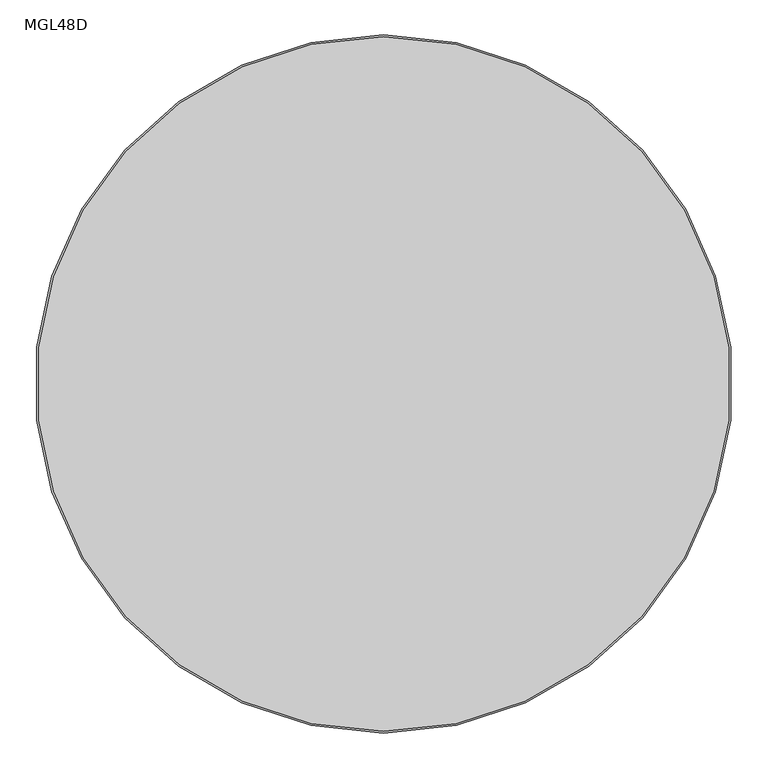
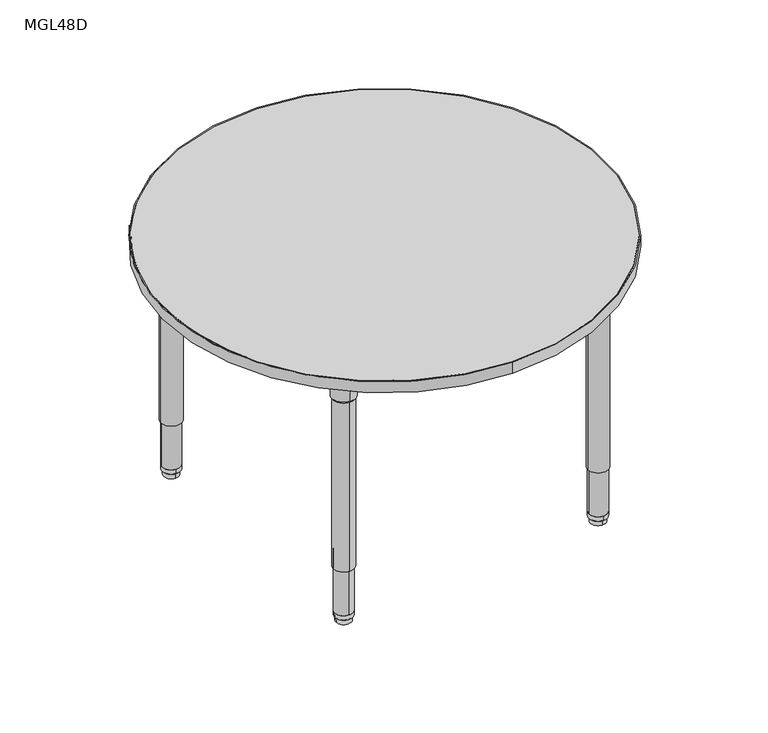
"""IFC4 building model written with IfcOpenShell, lengths in millimetres: furniture geometry, ERG-Mingle-Table-Round : MGL48D."""

from ifc_helpers import new_model, si_unit, point, frame, frame_2d, origin, origin_2d, place, context, project, spatial, polyline, circle_curve, trimmed, segment, composite_curve, outline, extrude, source, transform, mapped, element, save
from ifc_brep_helpers import plane_surface, cylinder_surface, revolved_surface, advanced_brep


def mgl48d_62a0719f(model_context):
    return source(origin(), model_context, "Body", "SolidModel", [
        advanced_brep(
        [(361.3237747, -338.5133775, 650.5933069), (421.3944063, -338.5133775, 650.5933069), (391.3590905, -338.5133775, 650.5933069), (359.2152075, -338.5133775, 654.3580481), (423.5029735, -338.5133775, 654.3580481), (358.2797256, -338.5133775, 707.7631458), (424.4384554, -338.5133775, 707.7631458), (354.8301735, -338.5133775, 714.1198315), (427.8880075, -338.5133775, 714.1198315), (354.8301735, -338.5133775, 726.8198315), (427.8880075, -338.5133775, 726.8198315), (391.3590905, -338.5133775, 726.8198315)],
        [
            (0, 1, circle_curve(frame((391.3590905, -338.5133775, 650.5933069), z_axis=(0.0, 0.0, -1.0), x_axis=(1.0, 0.0, 0.0)), 30.0353158)),
            (1, 2),
            (2, 0),
            (1, 0, circle_curve(frame((391.3590905, -338.5133775, 650.5933069), z_axis=(0.0, 0.0, -1.0), x_axis=(1.0, 0.0, 0.0)), 30.0353158)),
            (3, 4, circle_curve(frame((391.3590905, -338.5133775, 654.3580481), z_axis=(0.0, 0.0, -1.0), x_axis=(1.0, 0.0, 0.0)), 32.143883)),
            (4, 1),
            (0, 3),
            (4, 3, circle_curve(frame((391.3590905, -338.5133775, 654.3580481), z_axis=(0.0, 0.0, -1.0), x_axis=(1.0, 0.0, 0.0)), 32.143883)),
            (5, 6, circle_curve(frame((391.3590905, -338.5133775, 707.7631458), z_axis=(0.0, 0.0, -1.0), x_axis=(1.0, 0.0, 0.0)), 33.0793649)),
            (6, 4),
            (3, 5),
            (6, 5, circle_curve(frame((391.3590905, -338.5133775, 707.7631458), z_axis=(0.0, 0.0, -1.0), x_axis=(1.0, 0.0, 0.0)), 33.0793649)),
            (7, 8, circle_curve(frame((391.3590905, -338.5133775, 714.1198315), z_axis=(0.0, 0.0, -1.0), x_axis=(1.0, 0.0, 0.0)), 36.528917)),
            (8, 6),
            (5, 7),
            (8, 7, circle_curve(frame((391.3590905, -338.5133775, 714.1198315), z_axis=(0.0, 0.0, -1.0), x_axis=(1.0, 0.0, 0.0)), 36.528917)),
            (9, 10, circle_curve(frame((391.3590905, -338.5133775, 726.8198315), z_axis=(0.0, 0.0, -1.0), x_axis=(1.0, 0.0, 0.0)), 36.528917)),
            (10, 8),
            (7, 9),
            (10, 9, circle_curve(frame((391.3590905, -338.5133775, 726.8198315), z_axis=(0.0, 0.0, -1.0), x_axis=(1.0, 0.0, 0.0)), 36.528917)),
            (11, 10),
            (9, 11),
        ],
        [
            plane_surface(frame((391.3590905, -338.5133775, 650.5933069), z_axis=(0.0, 0.0, -1.0), x_axis=(1.0, 0.0, 0.0))),
            revolved_surface(polyline([(421.3944063, -338.5133775, 650.5933069), (423.5029735, -338.5133775, 654.3580481)]), (391.3590905, -338.5133775, 726.8198315), (0.0, 0.0, 1.0)),
            revolved_surface(polyline([(423.5029735, -338.5133775, 654.3580481), (424.4384554, -338.5133775, 707.7631458)]), (391.3590905, -338.5133775, 726.8198315), (0.0, 0.0, 1.0)),
            revolved_surface(polyline([(424.4384554, -338.5133775, 707.7631458), (427.8880075, -338.5133775, 714.1198315)]), (391.3590905, -338.5133775, 726.8198315), (0.0, 0.0, 1.0)),
            cylinder_surface(frame((391.3590905, -338.5133775, 726.8198315), z_axis=(0.0, 0.0, 1.0), x_axis=(1.0, 0.0, 0.0)), 36.528917),
            plane_surface(frame((391.3590905, -338.5133775, 726.8198315), z_axis=(0.0, 0.0, 1.0), x_axis=(1.0, 0.0, 0.0))),
        ],
        [
            (0, [[1, 2, 3]]),
            (0, [[4, -3, -2]]),
            (1, [[5, 6, -1, 7]]),
            (1, [[8, -7, -4, -6]]),
            (2, [[9, 10, -5, 11]]),
            (2, [[12, -11, -8, -10]]),
            (3, [[13, 14, -9, 15]]),
            (3, [[16, -15, -12, -14]]),
            (4, [[17, 18, -13, 19]]),
            (4, [[20, -19, -16, -18]]),
            (5, [[21, -17, 22]]),
            (5, [[-22, -20, -21]]),
        ],
    ),
        extrude(outline(composite_curve([segment(polyline([(437.2328585, -255.9357201), (437.2328585, -369.6617529)]), True, "CONTINUOUS"), segment(trimmed(circle_curve(frame_2d((421.3578585, -369.6617529)), 15.875), [point((437.2328585, -369.6617529))], [point((421.3578585, -385.5367529))], False, "CARTESIAN"), True, "CONTINUOUS"), segment(polyline([(421.3578585, -385.5367529), (307.645511, -385.5367529)]), True, "CONTINUOUS"), segment(trimmed(circle_curve(frame_2d((307.645511, -372.8367529)), 12.7), [point((307.645511, -385.5367529))], [point((295.0082828, -371.5756169))], False, "CARTESIAN"), True, "CONTINUOUS"), segment(trimmed(circle_curve(frame_2d((437.5076982, -385.7963892)), 143.2072406), [point((295.0082828, -371.5756169))], [point((423.270243, -243.2986397))], False, "CARTESIAN"), True, "CONTINUOUS"), segment(trimmed(circle_curve(frame_2d((424.5328585, -255.9357201)), 12.7), [point((423.270243, -243.2986397))], [point((437.2328585, -255.9357201))], False, "CARTESIAN"), True, "CONTINUOUS")], self_intersect=False)), frame((0.0, 0.0, 726.8198315), z_axis=(0.0, 0.0, 1.0), x_axis=(1.0, 0.0, 0.0)), (0.0, 0.0, 1.0), 3.4301685),
        extrude(outline(composite_curve([segment(trimmed(circle_curve(frame_2d((391.3590905, -338.5133775)), 28.575), [point((419.9340905, -338.5133775))], [point((362.7840905, -338.5133775))], False, "CARTESIAN"), True, "CONTINUOUS"), segment(trimmed(circle_curve(frame_2d((391.3590905, -338.5133775)), 28.575), [point((362.7840905, -338.5133775))], [point((419.9340905, -338.5133775))], False, "CARTESIAN"), True, "CONTINUOUS")], self_intersect=False)), frame((0.0, 0.0, 158.3876979), z_axis=(0.0, 0.0, 1.0), x_axis=(1.0, 0.0, 0.0)), (0.0, 0.0, 1.0), 495.4089866),
        extrude(outline(composite_curve([segment(trimmed(circle_curve(frame_2d((391.3590905, -338.5133775)), 25.4), [point((416.7590905, -338.5133775))], [point((365.9590905, -338.5133775))], False, "CARTESIAN"), True, "CONTINUOUS"), segment(trimmed(circle_curve(frame_2d((391.3590905, -338.5133775)), 25.4), [point((365.9590905, -338.5133775))], [point((416.7590905, -338.5133775))], False, "CARTESIAN"), True, "CONTINUOUS")], self_intersect=False)), frame((0.0, 0.0, 28.9580435), z_axis=(0.0, 0.0, 1.0), x_axis=(1.0, 0.0, 0.0)), (0.0, 0.0, 1.0), 176.7049119),
        advanced_brep(
        [(391.3590905, -313.2783671, 28.9580185), (391.3590905, -363.7483879, 28.9580185), (391.3590905, -338.5133775, 28.9580185), (391.3590905, -313.4141385, 16.3032949), (391.3590905, -363.6126165, 16.3032949), (391.3590905, -314.9294393, 14.7291007), (391.3590905, -362.0973156, 14.7291007), (391.3590905, -317.3725197, 14.7291007), (391.3590905, -359.6542353, 14.7291007), (391.3590905, -317.5655111, 0.0), (391.3590905, -359.4612438, 0.0), (391.3590905, -338.5133775, 0.0)],
        [
            (0, 1, circle_curve(frame((391.3590905, -338.5133775, 28.9580185), z_axis=(0.0, 0.0, 1.0), x_axis=(0.0, -1.0, 0.0)), 25.2350104)),
            (1, 2),
            (2, 0),
            (1, 0, circle_curve(frame((391.3590905, -338.5133775, 28.9580185), z_axis=(0.0, 0.0, 1.0), x_axis=(0.0, -1.0, 0.0)), 25.2350104)),
            (3, 4, circle_curve(frame((391.3590905, -338.5133775, 16.3032949), z_axis=(0.0, 0.0, 1.0), x_axis=(0.0, -1.0, 0.0)), 25.099239)),
            (4, 1),
            (0, 3),
            (4, 3, circle_curve(frame((391.3590905, -338.5133775, 16.3032949), z_axis=(0.0, 0.0, 1.0), x_axis=(0.0, -1.0, 0.0)), 25.099239)),
            (5, 6, circle_curve(frame((391.3590905, -338.5133775, 14.7291007), z_axis=(0.0, 0.0, 1.0), x_axis=(0.0, -1.0, 0.0)), 23.5839381)),
            (6, 4),
            (3, 5),
            (6, 5, circle_curve(frame((391.3590905, -338.5133775, 14.7291007), z_axis=(0.0, 0.0, 1.0), x_axis=(0.0, -1.0, 0.0)), 23.5839381)),
            (7, 8, circle_curve(frame((391.3590905, -338.5133775, 14.7291007), z_axis=(0.0, 0.0, 1.0), x_axis=(0.0, -1.0, 0.0)), 21.1408578)),
            (8, 6),
            (5, 7),
            (8, 7, circle_curve(frame((391.3590905, -338.5133775, 14.7291007), z_axis=(0.0, 0.0, 1.0), x_axis=(0.0, -1.0, 0.0)), 21.1408578)),
            (9, 10, circle_curve(frame((391.3590905, -338.5133775, 0.0), z_axis=(0.0, 0.0, 1.0), x_axis=(0.0, -1.0, 0.0)), 20.9478664)),
            (10, 8),
            (7, 9),
            (10, 9, circle_curve(frame((391.3590905, -338.5133775, 0.0), z_axis=(0.0, 0.0, 1.0), x_axis=(0.0, -1.0, 0.0)), 20.9478664)),
            (11, 10),
            (9, 11),
        ],
        [
            plane_surface(frame((391.3590905, -338.5133775, 28.9580185), z_axis=(0.0, 0.0, 1.0), x_axis=(0.0, -1.0, 0.0))),
            revolved_surface(polyline([(391.3590905, -363.7483879, 28.9580185), (391.3590905, -363.6126165, 16.3032949)]), (391.3590905, -338.5133775, 0.0), (0.0, 0.0, -1.0)),
            revolved_surface(polyline([(391.3590905, -363.6126165, 16.3032949), (391.3590905, -362.0973156, 14.7291007)]), (391.3590905, -338.5133775, 0.0), (0.0, 0.0, -1.0)),
            plane_surface(frame((391.3590905, -338.5133775, 14.7291007), z_axis=(0.0, 0.0, -1.0), x_axis=(0.0, -1.0, 0.0))),
            revolved_surface(polyline([(391.3590905, -359.6542353, 14.7291007), (391.3590905, -359.4612438, 0.0)]), (391.3590905, -338.5133775, 0.0), (0.0, 0.0, -1.0)),
            plane_surface(frame((391.3590905, -338.5133775, 0.0), z_axis=(0.0, 0.0, -1.0), x_axis=(0.0, -1.0, 0.0))),
        ],
        [
            (0, [[1, 2, 3]]),
            (0, [[4, -3, -2]]),
            (1, [[5, 6, -1, 7]]),
            (1, [[8, -7, -4, -6]]),
            (2, [[9, 10, -5, 11]]),
            (2, [[12, -11, -8, -10]]),
            (3, [[13, 14, -9, 15]]),
            (3, [[16, -15, -12, -14]]),
            (4, [[17, 18, -13, 19]]),
            (4, [[20, -19, -16, -18]]),
            (5, [[21, -17, 22]]),
            (5, [[-22, -20, -21]]),
        ],
    ),
        advanced_brep(
        [(-338.5133775, -361.3237747, 650.5933069), (-338.5133775, -421.3944063, 650.5933069), (-338.5133775, -391.3590905, 650.5933069), (-338.5133775, -359.2152075, 654.3580481), (-338.5133775, -423.5029735, 654.3580481), (-338.5133775, -358.2797256, 707.7631458), (-338.5133775, -424.4384554, 707.7631458), (-338.5133775, -354.8301735, 714.1198315), (-338.5133775, -427.8880075, 714.1198315), (-338.5133775, -354.8301735, 726.8198315), (-338.5133775, -427.8880075, 726.8198315), (-338.5133775, -391.3590905, 726.8198315)],
        [
            (0, 1, circle_curve(frame((-338.5133775, -391.3590905, 650.5933069), z_axis=(0.0, 0.0, -1.0), x_axis=(0.0, -1.0, 0.0)), 30.0353158)),
            (1, 2),
            (2, 0),
            (1, 0, circle_curve(frame((-338.5133775, -391.3590905, 650.5933069), z_axis=(0.0, 0.0, -1.0), x_axis=(0.0, -1.0, 0.0)), 30.0353158)),
            (3, 4, circle_curve(frame((-338.5133775, -391.3590905, 654.3580481), z_axis=(0.0, 0.0, -1.0), x_axis=(0.0, -1.0, 0.0)), 32.143883)),
            (4, 1),
            (0, 3),
            (4, 3, circle_curve(frame((-338.5133775, -391.3590905, 654.3580481), z_axis=(0.0, 0.0, -1.0), x_axis=(0.0, -1.0, 0.0)), 32.143883)),
            (5, 6, circle_curve(frame((-338.5133775, -391.3590905, 707.7631458), z_axis=(0.0, 0.0, -1.0), x_axis=(0.0, -1.0, 0.0)), 33.0793649)),
            (6, 4),
            (3, 5),
            (6, 5, circle_curve(frame((-338.5133775, -391.3590905, 707.7631458), z_axis=(0.0, 0.0, -1.0), x_axis=(0.0, -1.0, 0.0)), 33.0793649)),
            (7, 8, circle_curve(frame((-338.5133775, -391.3590905, 714.1198315), z_axis=(0.0, 0.0, -1.0), x_axis=(0.0, -1.0, 0.0)), 36.528917)),
            (8, 6),
            (5, 7),
            (8, 7, circle_curve(frame((-338.5133775, -391.3590905, 714.1198315), z_axis=(0.0, 0.0, -1.0), x_axis=(0.0, -1.0, 0.0)), 36.528917)),
            (9, 10, circle_curve(frame((-338.5133775, -391.3590905, 726.8198315), z_axis=(0.0, 0.0, -1.0), x_axis=(0.0, -1.0, 0.0)), 36.528917)),
            (10, 8),
            (7, 9),
            (10, 9, circle_curve(frame((-338.5133775, -391.3590905, 726.8198315), z_axis=(0.0, 0.0, -1.0), x_axis=(0.0, -1.0, 0.0)), 36.528917)),
            (11, 10),
            (9, 11),
        ],
        [
            plane_surface(frame((-338.5133775, -391.3590905, 650.5933069), z_axis=(0.0, 0.0, -1.0), x_axis=(0.0, -1.0, 0.0))),
            revolved_surface(polyline([(-338.5133775, -421.3944063, 650.5933069), (-338.5133775, -423.5029735, 654.3580481)]), (-338.5133775, -391.3590905, 726.8198315), (0.0, 0.0, 1.0)),
            revolved_surface(polyline([(-338.5133775, -423.5029735, 654.3580481), (-338.5133775, -424.4384554, 707.7631458)]), (-338.5133775, -391.3590905, 726.8198315), (0.0, 0.0, 1.0)),
            revolved_surface(polyline([(-338.5133775, -424.4384554, 707.7631458), (-338.5133775, -427.8880075, 714.1198315)]), (-338.5133775, -391.3590905, 726.8198315), (0.0, 0.0, 1.0)),
            cylinder_surface(frame((-338.5133775, -391.3590905, 726.8198315), z_axis=(0.0, 0.0, 1.0), x_axis=(0.0, -1.0, 0.0)), 36.528917),
            plane_surface(frame((-338.5133775, -391.3590905, 726.8198315), z_axis=(0.0, 0.0, 1.0), x_axis=(0.0, -1.0, 0.0))),
        ],
        [
            (0, [[1, 2, 3]]),
            (0, [[4, -3, -2]]),
            (1, [[5, 6, -1, 7]]),
            (1, [[8, -7, -4, -6]]),
            (2, [[9, 10, -5, 11]]),
            (2, [[12, -11, -8, -10]]),
            (3, [[13, 14, -9, 15]]),
            (3, [[16, -15, -12, -14]]),
            (4, [[17, 18, -13, 19]]),
            (4, [[20, -19, -16, -18]]),
            (5, [[21, -17, 22]]),
            (5, [[-22, -20, -21]]),
        ],
    ),
        extrude(outline(composite_curve([segment(polyline([(-255.9357201, -437.2328585), (-369.6617529, -437.2328585)]), True, "CONTINUOUS"), segment(trimmed(circle_curve(frame_2d((-369.6617529, -421.3578585)), 15.875), [point((-369.6617529, -437.2328585))], [point((-385.5367529, -421.3578585))], False, "CARTESIAN"), True, "CONTINUOUS"), segment(polyline([(-385.5367529, -421.3578585), (-385.5367529, -307.645511)]), True, "CONTINUOUS"), segment(trimmed(circle_curve(frame_2d((-372.8367529, -307.645511)), 12.7), [point((-385.5367529, -307.645511))], [point((-371.5756169, -295.0082828))], False, "CARTESIAN"), True, "CONTINUOUS"), segment(trimmed(circle_curve(frame_2d((-385.7963892, -437.5076982)), 143.2072406), [point((-371.5756169, -295.0082828))], [point((-243.2986397, -423.270243))], False, "CARTESIAN"), True, "CONTINUOUS"), segment(trimmed(circle_curve(frame_2d((-255.9357201, -424.5328585)), 12.7), [point((-243.2986397, -423.270243))], [point((-255.9357201, -437.2328585))], False, "CARTESIAN"), True, "CONTINUOUS")], self_intersect=False)), frame((0.0, 0.0, 726.8198315), z_axis=(0.0, 0.0, 1.0), x_axis=(1.0, 0.0, 0.0)), (0.0, 0.0, 1.0), 3.4301685),
        extrude(outline(composite_curve([segment(trimmed(circle_curve(frame_2d((-338.5133775, -391.3590905)), 28.575), [point((-338.5133775, -419.9340905))], [point((-338.5133775, -362.7840905))], False, "CARTESIAN"), True, "CONTINUOUS"), segment(trimmed(circle_curve(frame_2d((-338.5133775, -391.3590905)), 28.575), [point((-338.5133775, -362.7840905))], [point((-338.5133775, -419.9340905))], False, "CARTESIAN"), True, "CONTINUOUS")], self_intersect=False)), frame((0.0, 0.0, 158.3876979), z_axis=(0.0, 0.0, 1.0), x_axis=(1.0, 0.0, 0.0)), (0.0, 0.0, 1.0), 495.4089866),
        extrude(outline(composite_curve([segment(trimmed(circle_curve(frame_2d((-338.5133775, -391.3590905)), 25.4), [point((-338.5133775, -416.7590905))], [point((-338.5133775, -365.9590905))], False, "CARTESIAN"), True, "CONTINUOUS"), segment(trimmed(circle_curve(frame_2d((-338.5133775, -391.3590905)), 25.4), [point((-338.5133775, -365.9590905))], [point((-338.5133775, -416.7590905))], False, "CARTESIAN"), True, "CONTINUOUS")], self_intersect=False)), frame((0.0, 0.0, 28.9580435), z_axis=(0.0, 0.0, 1.0), x_axis=(1.0, 0.0, 0.0)), (0.0, 0.0, 1.0), 176.7049119),
        advanced_brep(
        [(-313.2783671, -391.3590905, 28.9580185), (-363.7483879, -391.3590905, 28.9580185), (-338.5133775, -391.3590905, 28.9580185), (-313.4141385, -391.3590905, 16.3032949), (-363.6126165, -391.3590905, 16.3032949), (-314.9294393, -391.3590905, 14.7291007), (-362.0973156, -391.3590905, 14.7291007), (-317.3725197, -391.3590905, 14.7291007), (-359.6542353, -391.3590905, 14.7291007), (-317.5655111, -391.3590905, 0.0), (-359.4612438, -391.3590905, 0.0), (-338.5133775, -391.3590905, 0.0)],
        [
            (0, 1, circle_curve(frame((-338.5133775, -391.3590905, 28.9580185), z_axis=(0.0, 0.0, 1.0), x_axis=(-1.0, 0.0, 0.0)), 25.2350104)),
            (1, 2),
            (2, 0),
            (1, 0, circle_curve(frame((-338.5133775, -391.3590905, 28.9580185), z_axis=(0.0, 0.0, 1.0), x_axis=(-1.0, 0.0, 0.0)), 25.2350104)),
            (3, 4, circle_curve(frame((-338.5133775, -391.3590905, 16.3032949), z_axis=(0.0, 0.0, 1.0), x_axis=(-1.0, 0.0, 0.0)), 25.099239)),
            (4, 1),
            (0, 3),
            (4, 3, circle_curve(frame((-338.5133775, -391.3590905, 16.3032949), z_axis=(0.0, 0.0, 1.0), x_axis=(-1.0, 0.0, 0.0)), 25.099239)),
            (5, 6, circle_curve(frame((-338.5133775, -391.3590905, 14.7291007), z_axis=(0.0, 0.0, 1.0), x_axis=(-1.0, 0.0, 0.0)), 23.5839381)),
            (6, 4),
            (3, 5),
            (6, 5, circle_curve(frame((-338.5133775, -391.3590905, 14.7291007), z_axis=(0.0, 0.0, 1.0), x_axis=(-1.0, 0.0, 0.0)), 23.5839381)),
            (7, 8, circle_curve(frame((-338.5133775, -391.3590905, 14.7291007), z_axis=(0.0, 0.0, 1.0), x_axis=(-1.0, 0.0, 0.0)), 21.1408578)),
            (8, 6),
            (5, 7),
            (8, 7, circle_curve(frame((-338.5133775, -391.3590905, 14.7291007), z_axis=(0.0, 0.0, 1.0), x_axis=(-1.0, 0.0, 0.0)), 21.1408578)),
            (9, 10, circle_curve(frame((-338.5133775, -391.3590905, 0.0), z_axis=(0.0, 0.0, 1.0), x_axis=(-1.0, 0.0, 0.0)), 20.9478664)),
            (10, 8),
            (7, 9),
            (10, 9, circle_curve(frame((-338.5133775, -391.3590905, 0.0), z_axis=(0.0, 0.0, 1.0), x_axis=(-1.0, 0.0, 0.0)), 20.9478664)),
            (11, 10),
            (9, 11),
        ],
        [
            plane_surface(frame((-338.5133775, -391.3590905, 28.9580185), z_axis=(0.0, 0.0, 1.0), x_axis=(-1.0, 0.0, 0.0))),
            revolved_surface(polyline([(-363.7483879, -391.3590905, 28.9580185), (-363.6126165, -391.3590905, 16.3032949)]), (-338.5133775, -391.3590905, 0.0), (0.0, 0.0, -1.0)),
            revolved_surface(polyline([(-363.6126165, -391.3590905, 16.3032949), (-362.0973156, -391.3590905, 14.7291007)]), (-338.5133775, -391.3590905, 0.0), (0.0, 0.0, -1.0)),
            plane_surface(frame((-338.5133775, -391.3590905, 14.7291007), z_axis=(0.0, 0.0, -1.0), x_axis=(-1.0, 0.0, 0.0))),
            revolved_surface(polyline([(-359.6542353, -391.3590905, 14.7291007), (-359.4612438, -391.3590905, 0.0)]), (-338.5133775, -391.3590905, 0.0), (0.0, 0.0, -1.0)),
            plane_surface(frame((-338.5133775, -391.3590905, 0.0), z_axis=(0.0, 0.0, -1.0), x_axis=(-1.0, 0.0, 0.0))),
        ],
        [
            (0, [[1, 2, 3]]),
            (0, [[4, -3, -2]]),
            (1, [[5, 6, -1, 7]]),
            (1, [[8, -7, -4, -6]]),
            (2, [[9, 10, -5, 11]]),
            (2, [[12, -11, -8, -10]]),
            (3, [[13, 14, -9, 15]]),
            (3, [[16, -15, -12, -14]]),
            (4, [[17, 18, -13, 19]]),
            (4, [[20, -19, -16, -18]]),
            (5, [[21, -17, 22]]),
            (5, [[-22, -20, -21]]),
        ],
    ),
        advanced_brep(
        [(338.5133775, 361.3237747, 650.5933069), (338.5133775, 421.3944063, 650.5933069), (338.5133775, 391.3590905, 650.5933069), (338.5133775, 359.2152075, 654.3580481), (338.5133775, 423.5029735, 654.3580481), (338.5133775, 358.2797256, 707.7631458), (338.5133775, 424.4384554, 707.7631458), (338.5133775, 354.8301735, 714.1198315), (338.5133775, 427.8880075, 714.1198315), (338.5133775, 354.8301735, 726.8198315), (338.5133775, 427.8880075, 726.8198315), (338.5133775, 391.3590905, 726.8198315)],
        [
            (0, 1, circle_curve(frame((338.5133775, 391.3590905, 650.5933069), z_axis=(0.0, 0.0, -1.0), x_axis=(0.0, 1.0, 0.0)), 30.0353158)),
            (1, 2),
            (2, 0),
            (1, 0, circle_curve(frame((338.5133775, 391.3590905, 650.5933069), z_axis=(0.0, 0.0, -1.0), x_axis=(0.0, 1.0, 0.0)), 30.0353158)),
            (3, 4, circle_curve(frame((338.5133775, 391.3590905, 654.3580481), z_axis=(0.0, 0.0, -1.0), x_axis=(0.0, 1.0, 0.0)), 32.143883)),
            (4, 1),
            (0, 3),
            (4, 3, circle_curve(frame((338.5133775, 391.3590905, 654.3580481), z_axis=(0.0, 0.0, -1.0), x_axis=(0.0, 1.0, 0.0)), 32.143883)),
            (5, 6, circle_curve(frame((338.5133775, 391.3590905, 707.7631458), z_axis=(0.0, 0.0, -1.0), x_axis=(0.0, 1.0, 0.0)), 33.0793649)),
            (6, 4),
            (3, 5),
            (6, 5, circle_curve(frame((338.5133775, 391.3590905, 707.7631458), z_axis=(0.0, 0.0, -1.0), x_axis=(0.0, 1.0, 0.0)), 33.0793649)),
            (7, 8, circle_curve(frame((338.5133775, 391.3590905, 714.1198315), z_axis=(0.0, 0.0, -1.0), x_axis=(0.0, 1.0, 0.0)), 36.528917)),
            (8, 6),
            (5, 7),
            (8, 7, circle_curve(frame((338.5133775, 391.3590905, 714.1198315), z_axis=(0.0, 0.0, -1.0), x_axis=(0.0, 1.0, 0.0)), 36.528917)),
            (9, 10, circle_curve(frame((338.5133775, 391.3590905, 726.8198315), z_axis=(0.0, 0.0, -1.0), x_axis=(0.0, 1.0, 0.0)), 36.528917)),
            (10, 8),
            (7, 9),
            (10, 9, circle_curve(frame((338.5133775, 391.3590905, 726.8198315), z_axis=(0.0, 0.0, -1.0), x_axis=(0.0, 1.0, 0.0)), 36.528917)),
            (11, 10),
            (9, 11),
        ],
        [
            plane_surface(frame((338.5133775, 391.3590905, 650.5933069), z_axis=(0.0, 0.0, -1.0), x_axis=(0.0, 1.0, 0.0))),
            revolved_surface(polyline([(338.5133775, 421.3944063, 650.5933069), (338.5133775, 423.5029735, 654.3580481)]), (338.5133775, 391.3590905, 726.8198315), (0.0, 0.0, 1.0)),
            revolved_surface(polyline([(338.5133775, 423.5029735, 654.3580481), (338.5133775, 424.4384554, 707.7631458)]), (338.5133775, 391.3590905, 726.8198315), (0.0, 0.0, 1.0)),
            revolved_surface(polyline([(338.5133775, 424.4384554, 707.7631458), (338.5133775, 427.8880075, 714.1198315)]), (338.5133775, 391.3590905, 726.8198315), (0.0, 0.0, 1.0)),
            cylinder_surface(frame((338.5133775, 391.3590905, 726.8198315), z_axis=(0.0, 0.0, 1.0), x_axis=(0.0, 1.0, 0.0)), 36.528917),
            plane_surface(frame((338.5133775, 391.3590905, 726.8198315), z_axis=(0.0, 0.0, 1.0), x_axis=(0.0, 1.0, 0.0))),
        ],
        [
            (0, [[1, 2, 3]]),
            (0, [[4, -3, -2]]),
            (1, [[5, 6, -1, 7]]),
            (1, [[8, -7, -4, -6]]),
            (2, [[9, 10, -5, 11]]),
            (2, [[12, -11, -8, -10]]),
            (3, [[13, 14, -9, 15]]),
            (3, [[16, -15, -12, -14]]),
            (4, [[17, 18, -13, 19]]),
            (4, [[20, -19, -16, -18]]),
            (5, [[21, -17, 22]]),
            (5, [[-22, -20, -21]]),
        ],
    ),
        extrude(outline(composite_curve([segment(polyline([(255.9357201, 437.2328585), (369.6617529, 437.2328585)]), True, "CONTINUOUS"), segment(trimmed(circle_curve(frame_2d((369.6617529, 421.3578585)), 15.875), [point((369.6617529, 437.2328585))], [point((385.5367529, 421.3578585))], False, "CARTESIAN"), True, "CONTINUOUS"), segment(polyline([(385.5367529, 421.3578585), (385.5367529, 307.645511)]), True, "CONTINUOUS"), segment(trimmed(circle_curve(frame_2d((372.8367529, 307.645511)), 12.7), [point((385.5367529, 307.645511))], [point((371.5756169, 295.0082828))], False, "CARTESIAN"), True, "CONTINUOUS"), segment(trimmed(circle_curve(frame_2d((385.7963892, 437.5076982)), 143.2072406), [point((371.5756169, 295.0082828))], [point((243.2986397, 423.270243))], False, "CARTESIAN"), True, "CONTINUOUS"), segment(trimmed(circle_curve(frame_2d((255.9357201, 424.5328585)), 12.7), [point((243.2986397, 423.270243))], [point((255.9357201, 437.2328585))], False, "CARTESIAN"), True, "CONTINUOUS")], self_intersect=False)), frame((0.0, 0.0, 726.8198315), z_axis=(0.0, 0.0, 1.0), x_axis=(1.0, 0.0, 0.0)), (0.0, 0.0, 1.0), 3.4301685),
        extrude(outline(composite_curve([segment(trimmed(circle_curve(frame_2d((338.5133775, 391.3590905)), 28.575), [point((338.5133775, 419.9340905))], [point((338.5133775, 362.7840905))], False, "CARTESIAN"), True, "CONTINUOUS"), segment(trimmed(circle_curve(frame_2d((338.5133775, 391.3590905)), 28.575), [point((338.5133775, 362.7840905))], [point((338.5133775, 419.9340905))], False, "CARTESIAN"), True, "CONTINUOUS")], self_intersect=False)), frame((0.0, 0.0, 158.3876979), z_axis=(0.0, 0.0, 1.0), x_axis=(1.0, 0.0, 0.0)), (0.0, 0.0, 1.0), 495.4089866),
        extrude(outline(composite_curve([segment(trimmed(circle_curve(frame_2d((338.5133775, 391.3590905)), 25.4), [point((338.5133775, 416.7590905))], [point((338.5133775, 365.9590905))], False, "CARTESIAN"), True, "CONTINUOUS"), segment(trimmed(circle_curve(frame_2d((338.5133775, 391.3590905)), 25.4), [point((338.5133775, 365.9590905))], [point((338.5133775, 416.7590905))], False, "CARTESIAN"), True, "CONTINUOUS")], self_intersect=False)), frame((0.0, 0.0, 28.9580435), z_axis=(0.0, 0.0, 1.0), x_axis=(1.0, 0.0, 0.0)), (0.0, 0.0, 1.0), 176.7049119),
        advanced_brep(
        [(313.2783671, 391.3590905, 28.9580185), (363.7483879, 391.3590905, 28.9580185), (338.5133775, 391.3590905, 28.9580185), (313.4141385, 391.3590905, 16.3032949), (363.6126165, 391.3590905, 16.3032949), (314.9294393, 391.3590905, 14.7291007), (362.0973156, 391.3590905, 14.7291007), (317.3725197, 391.3590905, 14.7291007), (359.6542353, 391.3590905, 14.7291007), (317.5655111, 391.3590905, 0.0), (359.4612438, 391.3590905, 0.0), (338.5133775, 391.3590905, 0.0)],
        [
            (0, 1, circle_curve(frame((338.5133775, 391.3590905, 28.9580185), z_axis=(0.0, 0.0, 1.0), x_axis=(1.0, 0.0, 0.0)), 25.2350104)),
            (1, 2),
            (2, 0),
            (1, 0, circle_curve(frame((338.5133775, 391.3590905, 28.9580185), z_axis=(0.0, 0.0, 1.0), x_axis=(1.0, 0.0, 0.0)), 25.2350104)),
            (3, 4, circle_curve(frame((338.5133775, 391.3590905, 16.3032949), z_axis=(0.0, 0.0, 1.0), x_axis=(1.0, 0.0, 0.0)), 25.099239)),
            (4, 1),
            (0, 3),
            (4, 3, circle_curve(frame((338.5133775, 391.3590905, 16.3032949), z_axis=(0.0, 0.0, 1.0), x_axis=(1.0, 0.0, 0.0)), 25.099239)),
            (5, 6, circle_curve(frame((338.5133775, 391.3590905, 14.7291007), z_axis=(0.0, 0.0, 1.0), x_axis=(1.0, 0.0, 0.0)), 23.5839381)),
            (6, 4),
            (3, 5),
            (6, 5, circle_curve(frame((338.5133775, 391.3590905, 14.7291007), z_axis=(0.0, 0.0, 1.0), x_axis=(1.0, 0.0, 0.0)), 23.5839381)),
            (7, 8, circle_curve(frame((338.5133775, 391.3590905, 14.7291007), z_axis=(0.0, 0.0, 1.0), x_axis=(1.0, 0.0, 0.0)), 21.1408578)),
            (8, 6),
            (5, 7),
            (8, 7, circle_curve(frame((338.5133775, 391.3590905, 14.7291007), z_axis=(0.0, 0.0, 1.0), x_axis=(1.0, 0.0, 0.0)), 21.1408578)),
            (9, 10, circle_curve(frame((338.5133775, 391.3590905, 0.0), z_axis=(0.0, 0.0, 1.0), x_axis=(1.0, 0.0, 0.0)), 20.9478664)),
            (10, 8),
            (7, 9),
            (10, 9, circle_curve(frame((338.5133775, 391.3590905, 0.0), z_axis=(0.0, 0.0, 1.0), x_axis=(1.0, 0.0, 0.0)), 20.9478664)),
            (11, 10),
            (9, 11),
        ],
        [
            plane_surface(frame((338.5133775, 391.3590905, 28.9580185), z_axis=(0.0, 0.0, 1.0), x_axis=(1.0, 0.0, 0.0))),
            revolved_surface(polyline([(363.7483879, 391.3590905, 28.9580185), (363.6126165, 391.3590905, 16.3032949)]), (338.5133775, 391.3590905, 0.0), (0.0, 0.0, -1.0)),
            revolved_surface(polyline([(363.6126165, 391.3590905, 16.3032949), (362.0973156, 391.3590905, 14.7291007)]), (338.5133775, 391.3590905, 0.0), (0.0, 0.0, -1.0)),
            plane_surface(frame((338.5133775, 391.3590905, 14.7291007), z_axis=(0.0, 0.0, -1.0), x_axis=(1.0, 0.0, 0.0))),
            revolved_surface(polyline([(359.6542353, 391.3590905, 14.7291007), (359.4612438, 391.3590905, 0.0)]), (338.5133775, 391.3590905, 0.0), (0.0, 0.0, -1.0)),
            plane_surface(frame((338.5133775, 391.3590905, 0.0), z_axis=(0.0, 0.0, -1.0), x_axis=(1.0, 0.0, 0.0))),
        ],
        [
            (0, [[1, 2, 3]]),
            (0, [[4, -3, -2]]),
            (1, [[5, 6, -1, 7]]),
            (1, [[8, -7, -4, -6]]),
            (2, [[9, 10, -5, 11]]),
            (2, [[12, -11, -8, -10]]),
            (3, [[13, 14, -9, 15]]),
            (3, [[16, -15, -12, -14]]),
            (4, [[17, 18, -13, 19]]),
            (4, [[20, -19, -16, -18]]),
            (5, [[21, -17, 22]]),
            (5, [[-22, -20, -21]]),
        ],
    ),
        advanced_brep(
        [(-361.3237747, 338.5133775, 650.5933069), (-421.3944063, 338.5133775, 650.5933069), (-391.3590905, 338.5133775, 650.5933069), (-359.2152075, 338.5133775, 654.3580481), (-423.5029735, 338.5133775, 654.3580481), (-358.2797256, 338.5133775, 707.7631458), (-424.4384554, 338.5133775, 707.7631458), (-354.8301735, 338.5133775, 714.1198315), (-427.8880075, 338.5133775, 714.1198315), (-354.8301735, 338.5133775, 726.8198315), (-427.8880075, 338.5133775, 726.8198315), (-391.3590905, 338.5133775, 726.8198315)],
        [
            (0, 1, circle_curve(frame((-391.3590905, 338.5133775, 650.5933069), z_axis=(0.0, 0.0, -1.0), x_axis=(-1.0, 0.0, 0.0)), 30.0353158)),
            (1, 2),
            (2, 0),
            (1, 0, circle_curve(frame((-391.3590905, 338.5133775, 650.5933069), z_axis=(0.0, 0.0, -1.0), x_axis=(-1.0, 0.0, 0.0)), 30.0353158)),
            (3, 4, circle_curve(frame((-391.3590905, 338.5133775, 654.3580481), z_axis=(0.0, 0.0, -1.0), x_axis=(-1.0, 0.0, 0.0)), 32.143883)),
            (4, 1),
            (0, 3),
            (4, 3, circle_curve(frame((-391.3590905, 338.5133775, 654.3580481), z_axis=(0.0, 0.0, -1.0), x_axis=(-1.0, 0.0, 0.0)), 32.143883)),
            (5, 6, circle_curve(frame((-391.3590905, 338.5133775, 707.7631458), z_axis=(0.0, 0.0, -1.0), x_axis=(-1.0, 0.0, 0.0)), 33.0793649)),
            (6, 4),
            (3, 5),
            (6, 5, circle_curve(frame((-391.3590905, 338.5133775, 707.7631458), z_axis=(0.0, 0.0, -1.0), x_axis=(-1.0, 0.0, 0.0)), 33.0793649)),
            (7, 8, circle_curve(frame((-391.3590905, 338.5133775, 714.1198315), z_axis=(0.0, 0.0, -1.0), x_axis=(-1.0, 0.0, 0.0)), 36.528917)),
            (8, 6),
            (5, 7),
            (8, 7, circle_curve(frame((-391.3590905, 338.5133775, 714.1198315), z_axis=(0.0, 0.0, -1.0), x_axis=(-1.0, 0.0, 0.0)), 36.528917)),
            (9, 10, circle_curve(frame((-391.3590905, 338.5133775, 726.8198315), z_axis=(0.0, 0.0, -1.0), x_axis=(-1.0, 0.0, 0.0)), 36.528917)),
            (10, 8),
            (7, 9),
            (10, 9, circle_curve(frame((-391.3590905, 338.5133775, 726.8198315), z_axis=(0.0, 0.0, -1.0), x_axis=(-1.0, 0.0, 0.0)), 36.528917)),
            (11, 10),
            (9, 11),
        ],
        [
            plane_surface(frame((-391.3590905, 338.5133775, 650.5933069), z_axis=(0.0, 0.0, -1.0), x_axis=(-1.0, 0.0, 0.0))),
            revolved_surface(polyline([(-421.3944063, 338.5133775, 650.5933069), (-423.5029735, 338.5133775, 654.3580481)]), (-391.3590905, 338.5133775, 726.8198315), (0.0, 0.0, 1.0)),
            revolved_surface(polyline([(-423.5029735, 338.5133775, 654.3580481), (-424.4384554, 338.5133775, 707.7631458)]), (-391.3590905, 338.5133775, 726.8198315), (0.0, 0.0, 1.0)),
            revolved_surface(polyline([(-424.4384554, 338.5133775, 707.7631458), (-427.8880075, 338.5133775, 714.1198315)]), (-391.3590905, 338.5133775, 726.8198315), (0.0, 0.0, 1.0)),
            cylinder_surface(frame((-391.3590905, 338.5133775, 726.8198315), z_axis=(0.0, 0.0, 1.0), x_axis=(-1.0, 0.0, 0.0)), 36.528917),
            plane_surface(frame((-391.3590905, 338.5133775, 726.8198315), z_axis=(0.0, 0.0, 1.0), x_axis=(-1.0, 0.0, 0.0))),
        ],
        [
            (0, [[1, 2, 3]]),
            (0, [[4, -3, -2]]),
            (1, [[5, 6, -1, 7]]),
            (1, [[8, -7, -4, -6]]),
            (2, [[9, 10, -5, 11]]),
            (2, [[12, -11, -8, -10]]),
            (3, [[13, 14, -9, 15]]),
            (3, [[16, -15, -12, -14]]),
            (4, [[17, 18, -13, 19]]),
            (4, [[20, -19, -16, -18]]),
            (5, [[21, -17, 22]]),
            (5, [[-22, -20, -21]]),
        ],
    ),
        extrude(outline(composite_curve([segment(polyline([(-437.2328585, 255.9357201), (-437.2328585, 369.6617529)]), True, "CONTINUOUS"), segment(trimmed(circle_curve(frame_2d((-421.3578585, 369.6617529)), 15.875), [point((-437.2328585, 369.6617529))], [point((-421.3578585, 385.5367529))], False, "CARTESIAN"), True, "CONTINUOUS"), segment(polyline([(-421.3578585, 385.5367529), (-307.645511, 385.5367529)]), True, "CONTINUOUS"), segment(trimmed(circle_curve(frame_2d((-307.645511, 372.8367529)), 12.7), [point((-307.645511, 385.5367529))], [point((-295.0082828, 371.5756169))], False, "CARTESIAN"), True, "CONTINUOUS"), segment(trimmed(circle_curve(frame_2d((-437.5076982, 385.7963892)), 143.2072406), [point((-295.0082828, 371.5756169))], [point((-423.270243, 243.2986397))], False, "CARTESIAN"), True, "CONTINUOUS"), segment(trimmed(circle_curve(frame_2d((-424.5328585, 255.9357201)), 12.7), [point((-423.270243, 243.2986397))], [point((-437.2328585, 255.9357201))], False, "CARTESIAN"), True, "CONTINUOUS")], self_intersect=False)), frame((0.0, 0.0, 726.8198315), z_axis=(0.0, 0.0, 1.0), x_axis=(1.0, 0.0, 0.0)), (0.0, 0.0, 1.0), 3.4301685),
        extrude(outline(composite_curve([segment(trimmed(circle_curve(frame_2d((-391.3590905, 338.5133775)), 28.575), [point((-419.9340905, 338.5133775))], [point((-362.7840905, 338.5133775))], False, "CARTESIAN"), True, "CONTINUOUS"), segment(trimmed(circle_curve(frame_2d((-391.3590905, 338.5133775)), 28.575), [point((-362.7840905, 338.5133775))], [point((-419.9340905, 338.5133775))], False, "CARTESIAN"), True, "CONTINUOUS")], self_intersect=False)), frame((0.0, 0.0, 158.3876979), z_axis=(0.0, 0.0, 1.0), x_axis=(1.0, 0.0, 0.0)), (0.0, 0.0, 1.0), 495.4089866),
        extrude(outline(composite_curve([segment(trimmed(circle_curve(frame_2d((-391.3590905, 338.5133775)), 25.4), [point((-416.7590905, 338.5133775))], [point((-365.9590905, 338.5133775))], False, "CARTESIAN"), True, "CONTINUOUS"), segment(trimmed(circle_curve(frame_2d((-391.3590905, 338.5133775)), 25.4), [point((-365.9590905, 338.5133775))], [point((-416.7590905, 338.5133775))], False, "CARTESIAN"), True, "CONTINUOUS")], self_intersect=False)), frame((0.0, 0.0, 28.9580435), z_axis=(0.0, 0.0, 1.0), x_axis=(1.0, 0.0, 0.0)), (0.0, 0.0, 1.0), 176.7049119),
        advanced_brep(
        [(-391.3590905, 313.2783671, 28.9580185), (-391.3590905, 363.7483879, 28.9580185), (-391.3590905, 338.5133775, 28.9580185), (-391.3590905, 313.4141385, 16.3032949), (-391.3590905, 363.6126165, 16.3032949), (-391.3590905, 314.9294393, 14.7291007), (-391.3590905, 362.0973156, 14.7291007), (-391.3590905, 317.3725197, 14.7291007), (-391.3590905, 359.6542353, 14.7291007), (-391.3590905, 317.5655111, 0.0), (-391.3590905, 359.4612438, 0.0), (-391.3590905, 338.5133775, 0.0)],
        [
            (0, 1, circle_curve(frame((-391.3590905, 338.5133775, 28.9580185), z_axis=(0.0, 0.0, 1.0), x_axis=(0.0, 1.0, 0.0)), 25.2350104)),
            (1, 2),
            (2, 0),
            (1, 0, circle_curve(frame((-391.3590905, 338.5133775, 28.9580185), z_axis=(0.0, 0.0, 1.0), x_axis=(0.0, 1.0, 0.0)), 25.2350104)),
            (3, 4, circle_curve(frame((-391.3590905, 338.5133775, 16.3032949), z_axis=(0.0, 0.0, 1.0), x_axis=(0.0, 1.0, 0.0)), 25.099239)),
            (4, 1),
            (0, 3),
            (4, 3, circle_curve(frame((-391.3590905, 338.5133775, 16.3032949), z_axis=(0.0, 0.0, 1.0), x_axis=(0.0, 1.0, 0.0)), 25.099239)),
            (5, 6, circle_curve(frame((-391.3590905, 338.5133775, 14.7291007), z_axis=(0.0, 0.0, 1.0), x_axis=(0.0, 1.0, 0.0)), 23.5839381)),
            (6, 4),
            (3, 5),
            (6, 5, circle_curve(frame((-391.3590905, 338.5133775, 14.7291007), z_axis=(0.0, 0.0, 1.0), x_axis=(0.0, 1.0, 0.0)), 23.5839381)),
            (7, 8, circle_curve(frame((-391.3590905, 338.5133775, 14.7291007), z_axis=(0.0, 0.0, 1.0), x_axis=(0.0, 1.0, 0.0)), 21.1408578)),
            (8, 6),
            (5, 7),
            (8, 7, circle_curve(frame((-391.3590905, 338.5133775, 14.7291007), z_axis=(0.0, 0.0, 1.0), x_axis=(0.0, 1.0, 0.0)), 21.1408578)),
            (9, 10, circle_curve(frame((-391.3590905, 338.5133775, 0.0), z_axis=(0.0, 0.0, 1.0), x_axis=(0.0, 1.0, 0.0)), 20.9478664)),
            (10, 8),
            (7, 9),
            (10, 9, circle_curve(frame((-391.3590905, 338.5133775, 0.0), z_axis=(0.0, 0.0, 1.0), x_axis=(0.0, 1.0, 0.0)), 20.9478664)),
            (11, 10),
            (9, 11),
        ],
        [
            plane_surface(frame((-391.3590905, 338.5133775, 28.9580185), z_axis=(0.0, 0.0, 1.0), x_axis=(0.0, 1.0, 0.0))),
            revolved_surface(polyline([(-391.3590905, 363.7483879, 28.9580185), (-391.3590905, 363.6126165, 16.3032949)]), (-391.3590905, 338.5133775, 0.0), (0.0, 0.0, -1.0)),
            revolved_surface(polyline([(-391.3590905, 363.6126165, 16.3032949), (-391.3590905, 362.0973156, 14.7291007)]), (-391.3590905, 338.5133775, 0.0), (0.0, 0.0, -1.0)),
            plane_surface(frame((-391.3590905, 338.5133775, 14.7291007), z_axis=(0.0, 0.0, -1.0), x_axis=(0.0, 1.0, 0.0))),
            revolved_surface(polyline([(-391.3590905, 359.6542353, 14.7291007), (-391.3590905, 359.4612438, 0.0)]), (-391.3590905, 338.5133775, 0.0), (0.0, 0.0, -1.0)),
            plane_surface(frame((-391.3590905, 338.5133775, 0.0), z_axis=(0.0, 0.0, -1.0), x_axis=(0.0, 1.0, 0.0))),
        ],
        [
            (0, [[1, 2, 3]]),
            (0, [[4, -3, -2]]),
            (1, [[5, 6, -1, 7]]),
            (1, [[8, -7, -4, -6]]),
            (2, [[9, 10, -5, 11]]),
            (2, [[12, -11, -8, -10]]),
            (3, [[13, 14, -9, 15]]),
            (3, [[16, -15, -12, -14]]),
            (4, [[17, 18, -13, 19]]),
            (4, [[20, -19, -16, -18]]),
            (5, [[21, -17, 22]]),
            (5, [[-22, -20, -21]]),
        ],
    ),
        extrude(outline(composite_curve([segment(trimmed(circle_curve(origin_2d(), 606.425), [point((0.0, -606.425))], [point((0.0, 606.425))], False, "CARTESIAN"), True, "CONTINUOUS"), segment(trimmed(circle_curve(origin_2d(), 606.425), [point((0.0, 606.425))], [point((0.0, -606.425))], False, "CARTESIAN"), True, "CONTINUOUS")], self_intersect=False)), frame((0.0, 0.0, 730.25), z_axis=(0.0, 0.0, 1.0), x_axis=(1.0, 0.0, 0.0)), (0.0, 0.0, 1.0), 31.75),
        extrude(outline(composite_curve([segment(trimmed(circle_curve(origin_2d(), 609.6), [point((0.0, -609.6))], [point((0.0, 609.6))], False, "CARTESIAN"), True, "CONTINUOUS"), segment(trimmed(circle_curve(origin_2d(), 609.6), [point((0.0, 609.6))], [point((0.0, -609.6))], False, "CARTESIAN"), True, "CONTINUOUS")], self_intersect=False), holes=[composite_curve([segment(trimmed(circle_curve(origin_2d(), 606.425), [point((0.0, 606.425))], [point((0.0, -606.425))], True, "CARTESIAN"), True, "CONTINUOUS"), segment(trimmed(circle_curve(origin_2d(), 606.425), [point((0.0, -606.425))], [point((0.0, 606.425))], True, "CARTESIAN"), True, "CONTINUOUS")], self_intersect=False)]), frame((0.0, 0.0, 730.25), z_axis=(0.0, 0.0, 1.0), x_axis=(1.0, 0.0, 0.0)), (0.0, 0.0, 1.0), 31.75),
    ])


if __name__ == "__main__":
    model = new_model("IFC4")
    model_context = context("Model", 3, world=origin())
    ifc_project = project(units=[si_unit("LENGTHUNIT", "METRE", prefix="MILLI")], contexts=[model_context])
    site = spatial("IfcSite", under=ifc_project)
    building = spatial("IfcBuilding", under=site)
    placement = place(None, origin())
    mgl48d_shape = mgl48d_62a0719f(model_context)
    element("IfcFurniture", 1, ObjectType="ERG-Mingle-Table-Round : MGL48D", at=placement, inside=building, context=model_context, shape_type="MappedRepresentation", body=[
        mapped(mgl48d_shape, transform((0.0, 0.0, 0.0), x_axis=(1.0, 0.0, 0.0), y_axis=(0.0, 1.0, 0.0), z_axis=(0.0, 0.0, 1.0))),
    ])
    save(model, "model.ifc")
